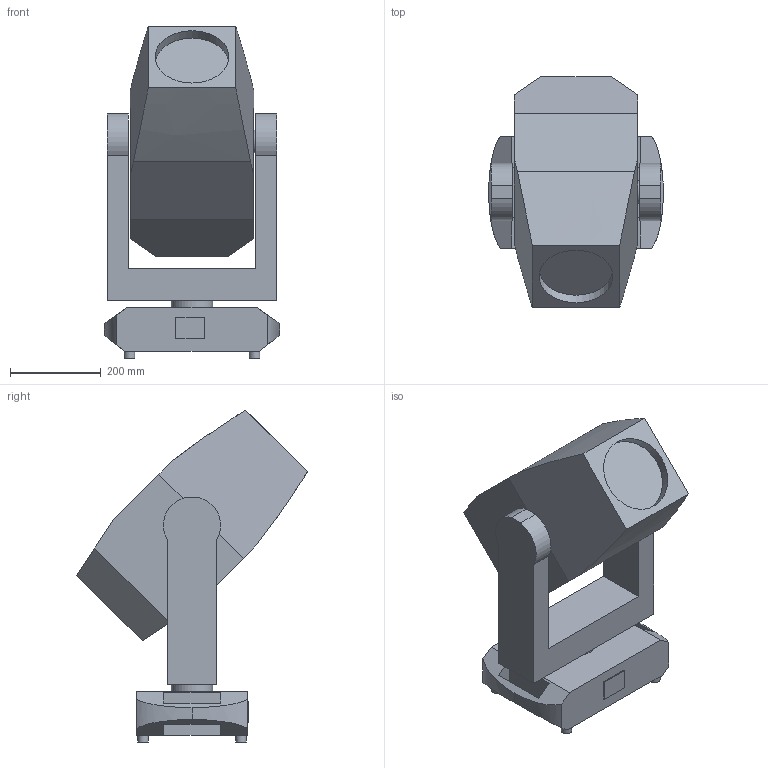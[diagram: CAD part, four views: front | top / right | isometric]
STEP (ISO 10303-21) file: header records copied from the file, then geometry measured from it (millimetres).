
FILE_DESCRIPTION(/* description */ (''),/* implementation_level */ '2;1');
FILE_NAME(/* name */ 'MAVERICK STORM 3 PROFILE_45.stp',/* time_stamp */ '2025-08-07T15:51:07-04:00',/* author */ ('chenry'),/* organization */ (''),/* preprocessor_version */ 'ST-DEVELOPER v20',/* originating_system */ 'Autodesk Inventor 2024',/* authorisation */ '');
FILE_SCHEMA (('AUTOMOTIVE_DESIGN { 1 0 10303 214 3 1 1 }'));
Length unit declared in the file: millimetre
Products named in the file (4): MIP-600_LED_PROFILE_ASM; ARM; Base; Head
Assembly tree (3 placements, depth 2):
  MIP-600_LED_PROFILE_ASM
    ARM
    Base
    Head
Bounding box: 386.28 x 509.44 x 732.47 mm (x, y, z)
Volume: 44912232.4 mm3; surface area: 1278805.8 mm2
Topology: 3 solids, 3 shells, 75 faces, 187 edges, 122 vertices
Faces by surface type: plane 56, cylinder 13, bspline 6
Full cylindrical faces by diameter (mm): 23.335 x4, 50 x2, 91 x2, 163.161 x1
Entity records: 2881 total; most frequent: CARTESIAN_POINT 923, ORIENTED_EDGE 374, DIRECTION 361, EDGE_CURVE 187, LINE 141, VECTOR 141, VERTEX_POINT 122, AXIS2_PLACEMENT_3D 110
